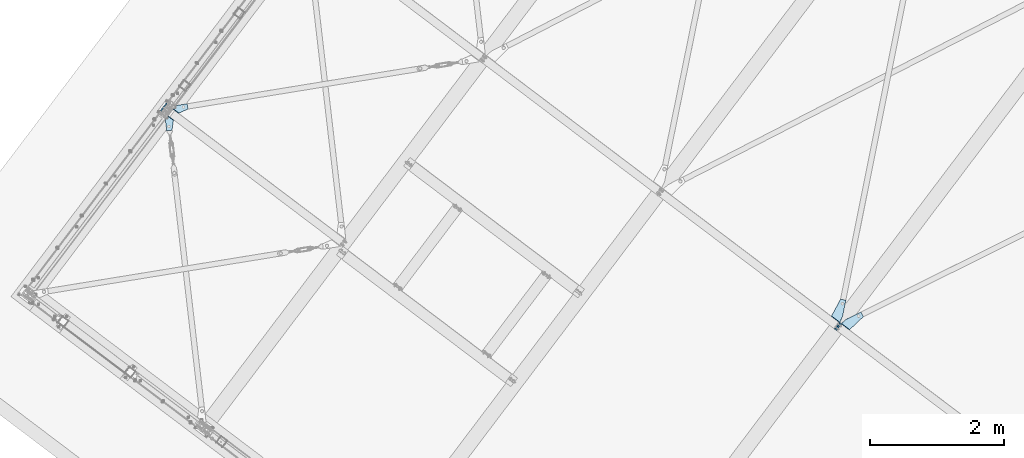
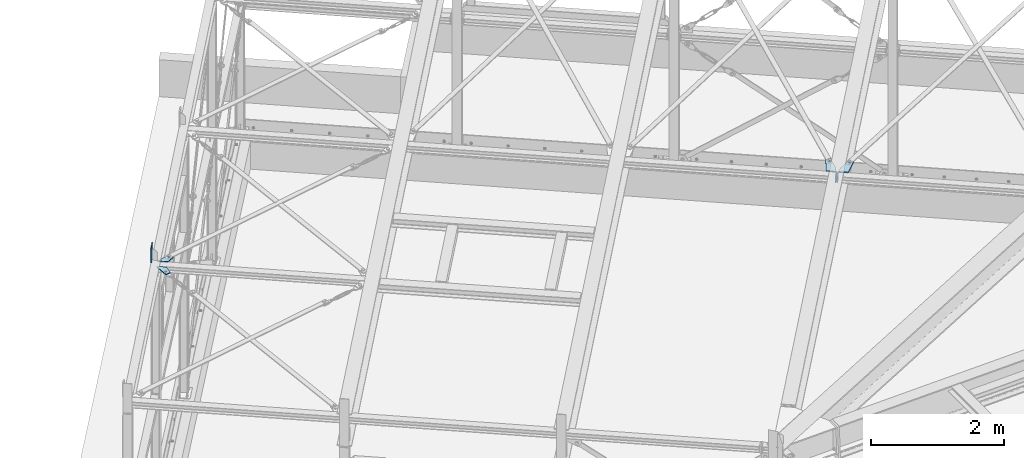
# One storey, part 55 of 476: 7 plates, 22 openings.
"""IFC2X3 building model written with IfcOpenShell, lengths in millimetres."""

from ifc_helpers import new_model, entity, si_unit, converted_unit, point, frame, frame_2d, origin, origin_with_axes, origin_2d_with_axis, place, context, project, spatial, polyline, circle_curve, line_curve, trimmed, segment, composite_curve, circle, outline, extrude, material, layer, layer_set, element, save


model = new_model("IFC2X3")

# Units and contexts
model_context = context("Model", 3, precision=1e-09, world=origin_with_axes())
ifc_project = project(units=[si_unit("LENGTHUNIT", "METRE", prefix="MILLI"), si_unit("AREAUNIT", "SQUARE_METRE"), si_unit("VOLUMEUNIT", "CUBIC_METRE"), converted_unit("PLANEANGLEUNIT", "DEGREE", entity("IfcPlaneAngleMeasure", 0.01745329), si_unit("PLANEANGLEUNIT", "RADIAN"), dimensions=[0, 0, 0, 0, 0, 0, 0])], contexts=[model_context])

# Site, building, storey
site_placement = place(None, origin_with_axes())
site = spatial("IfcSite", under=ifc_project, at=site_placement, Name="mKR Teilneubau & Sanierung BA1 - Ostfildern", CompositionType="ELEMENT")
building_placement = place(site_placement, origin_with_axes())
building = spatial("IfcBuilding", under=site, at=building_placement, Name="Struktur 1", CompositionType="ELEMENT")
storey_placement = place(building_placement, origin_with_axes())
storey = spatial("IfcBuildingStorey", under=building, at=storey_placement, Name="Default Storey", CompositionType="ELEMENT", Elevation=0.0)

# Plate, openings
ifc_material = material(Name="S235JR")
ifc_layer_1 = layer(ifc_material, 15.0)
ifc_layer_set_1 = layer_set([ifc_layer_1], Name="S235JR")
plate_1_placement = place(None, frame((12345.228374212, -385.538776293, 5423.379371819), z_axis=(-0.018098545, -0.02396011, 0.999549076), x_axis=(0.602462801, 0.797581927, 0.030027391)))
plate_1 = element("IfcPlate", 1, at=plate_1_placement, inside=storey, material=ifc_layer_set_1, Name="-", ObjectType="-", context=model_context, shape_type="SweptSolid", body=[
    extrude(outline(polyline([(0.0, 0.0), (69.510071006, 0.0), (323.508183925, 122.383902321), (288.782369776, 194.454130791), (1.572e-05, 149.999963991), (0.0, 0.0)])), origin_with_axes(), (0.0, 0.0, -1.0), 15.0),
])
opening_1_placement = place(plate_1_placement, frame((69.510071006, 0.0, 0.01), z_axis=(0.0, 0.0, 1.0), x_axis=(0.900878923, 0.434070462, 0.0)))
element("IfcOpeningElement", 2, at=opening_1_placement, cuts=plate_1, ObjectType="Opening", context=model_context, shape_type="SweptSolid", body=[
    extrude(outline(composite_curve([segment(trimmed(line_curve((0.0, 0.0), (1.0, 0.0), 39.961688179), [point((0.0, 0.0))], [point((39.961688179, 0.0))], True, "CARTESIAN"), True, "CONTINUOUS"), segment(trimmed(circle_curve(frame_2d((39.961688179, 175.0), x_axis=(-1.0, 0.0)), 175.0), [point((39.961688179, 0.0))], [point((-36.000642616, 17.346188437))], False, "CARTESIAN"), True, "CONTINUOUS"), segment(trimmed(line_curve((-36.000642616, 17.346188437), (0.900878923, -0.434070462), 39.961688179), [point((-36.000642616, 17.346188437))], [point((0.0, 0.0))], True, "CARTESIAN"), True, "CONTINUOUS")], self_intersect=False)), origin(), (0.0, 0.0, -1.0), 15.02),
])
opening_2_placement = place(plate_1_placement, frame((0.0, -0.000999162, 0.0), z_axis=(1.05e-07, 1.0, 0.0), x_axis=(1.0, -1.05e-07, 0.0)))
element("IfcOpeningElement", 3, at=opening_2_placement, cuts=plate_1, ObjectType="Opening", context=model_context, shape_type="SweptSolid", body=[
    extrude(outline(polyline([(0.0, 0.0), (8.0, 0.0), (0.0, 8.0), (0.0, 0.0)])), origin(), (0.0, 0.0, 1.0), 151.253456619),
])
opening_3_placement = place(plate_1_placement, frame((265.157700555, 138.669993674, -15.499642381), z_axis=(1.1814e-05, 5.692e-06, -1.0), x_axis=(-1.0, 0.0, -1.1814e-05)))
element("IfcOpeningElement", 4, at=opening_3_placement, cuts=plate_1, ObjectType="Opening", context=model_context, shape_type="SweptSolid", body=[
    extrude(circle(Radius=14.501, at=frame_2d((13.063645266, -6.294455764), x_axis=(1.0, 0.0))), origin(), (0.0, 0.0, -1.0), 16.000000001),
])

plate_2_placement = place(None, frame((2374.684991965, 2822.201131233, 5319.737997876), z_axis=(0.018098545, 0.02396011, -0.999549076), x_axis=(0.602462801, 0.797581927, 0.030027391)))
plate_2 = element("IfcPlate", 5, at=plate_2_placement, inside=storey, material=ifc_layer_set_1, Name="-", ObjectType="-", context=model_context, shape_type="SweptSolid", body=[
    extrude(outline(polyline([(0.0, 0.0), (16.761939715, 0.0), (192.636873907, 167.974256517), (137.382787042, 225.827096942), (1.572e-05, 149.999963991), (0.0, 0.0)])), origin_with_axes(), (0.0, 0.0, 1.0), 15.0),
])
opening_4_placement = place(plate_2_placement, frame((1.6183e-05, 154.416490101, 0.0), z_axis=(-1.05e-07, -1.0, 0.0), x_axis=(1.0, -1.05e-07, 0.0)))
element("IfcOpeningElement", 6, at=opening_4_placement, cuts=plate_2, ObjectType="Opening", context=model_context, shape_type="SweptSolid", body=[
    extrude(outline(polyline([(0.0, 0.0), (8.0, 0.0), (0.0, 8.0), (0.0, 0.0)])), origin(), (0.0, 0.0, 1.0), 154.437489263),
])
opening_5_placement = place(plate_2_placement, frame((132.106849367, 165.475673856, 15.499709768), z_axis=(7.613e-06, 7.271e-06, 1.0), x_axis=(1.0, 0.0, -7.613e-06)))
element("IfcOpeningElement", 7, at=opening_5_placement, cuts=plate_2, ObjectType="Opening", context=model_context, shape_type="SweptSolid", body=[
    extrude(circle(Radius=14.501, at=frame_2d((-10.486598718, -10.015500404), x_axis=(1.0, 0.0))), origin(), (0.0, 0.0, -1.0), 16.000000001),
])

plate_3_placement = place(None, frame((2302.388707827, 2726.489821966, 5316.134661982), z_axis=(-0.018098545, -0.02396011, 0.999549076), x_axis=(-0.602462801, -0.797581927, -0.030027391)))
plate_3 = element("IfcPlate", 8, at=plate_3_placement, inside=storey, material=ifc_layer_set_1, Name="-", ObjectType="-", context=model_context, shape_type="SweptSolid", body=[
    extrude(outline(polyline([(0.0, 0.0), (16.761939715, 0.0), (192.636873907, 167.974256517), (137.382787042, 225.827096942), (1.572e-05, 149.999963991), (0.0, 0.0)])), origin_with_axes(), (0.0, 0.0, -1.0), 15.0),
])
opening_6_placement = place(plate_3_placement, frame((0.0, -0.000999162, 0.0), z_axis=(1.05e-07, 1.0, 0.0), x_axis=(1.0, -1.05e-07, 0.0)))
element("IfcOpeningElement", 9, at=opening_6_placement, cuts=plate_3, ObjectType="Opening", context=model_context, shape_type="SweptSolid", body=[
    extrude(outline(polyline([(0.0, 0.0), (8.0, 0.0), (0.0, 8.0), (0.0, 0.0)])), origin(), (0.0, 0.0, 1.0), 154.437489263),
])
opening_7_placement = place(plate_3_placement, frame((121.62025065, 155.460173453, -15.499862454), z_axis=(-7.613e-06, -7.271e-06, 1.0), x_axis=(-0.723163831, -0.690676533, -1.0527e-05)))
element("IfcOpeningElement", 10, at=opening_7_placement, cuts=plate_3, ObjectType="Opening", context=model_context, shape_type="SweptSolid", body=[
    extrude(circle(Radius=14.501, at=origin_2d_with_axis()), origin(), (0.0, 0.0, 1.0), 16.000000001),
])

# Plate
ifc_layer_2 = layer(ifc_material, 10.0)
ifc_layer_set_2 = layer_set([ifc_layer_2], Name="S235JR")
plate_4_placement = place(None, frame((2255.376349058, 2789.18271498, 5576.736213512), z_axis=(-0.797941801, 0.602734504, 0.0), x_axis=(0.602734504, 0.797941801, 0.0)))
element("IfcPlate", 11, at=plate_4_placement, inside=storey, material=ifc_layer_set_2, Name="-", ObjectType="-", context=model_context, shape_type="SweptSolid", body=[
    extrude(outline(polyline([(-30.0, -74.09833483), (110.0, -74.09833483), (110.0, 196.693894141), (-30.0, 200.90166517), (-30.0, -74.09833483)])), origin_with_axes(), (0.0, 0.0, 1.0), 10.0),
])

# Plate, openings
plate_5_placement = place(None, frame((12373.955019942, -407.237317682, 5423.378625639), z_axis=(0.018098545, 0.02396011, -0.999549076), x_axis=(0.602462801, 0.797581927, 0.030027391)))
plate_5 = element("IfcPlate", 12, at=plate_5_placement, inside=storey, material=ifc_layer_set_1, Name="-", ObjectType="-", context=model_context, shape_type="SweptSolid", body=[
    extrude(outline(polyline([(0.0, 0.0), (65.954896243, 0.0), (321.261469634, 127.050274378), (285.61998654, 198.672036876), (1.572e-05, 149.999963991), (0.0, 0.0)])), origin_with_axes(), (0.0, 0.0, 1.0), 15.0),
])
opening_8_placement = place(plate_5_placement, frame((0.0, 0.0, -0.01), z_axis=(0.0, 0.0, 1.0), x_axis=(1.0, 0.0, 0.0)))
element("IfcOpeningElement", 13, at=opening_8_placement, cuts=plate_5, ObjectType="Opening", context=model_context, shape_type="SweptSolid", body=[
    extrude(outline(composite_curve([segment(trimmed(line_curve((65.954896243, 0.0), (0.895271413, 0.445521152), 41.13722238), [point((65.954896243, 0.0))], [point((102.783875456, 18.327502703))], True, "CARTESIAN"), True, "CONTINUOUS"), segment(trimmed(circle_curve(frame_2d((24.817673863, 175.0), x_axis=(-1.0, 0.0)), 175.0), [point((102.783875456, 18.327502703))], [point((24.817673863, 0.0))], False, "CARTESIAN"), True, "CONTINUOUS"), segment(trimmed(line_curve((24.817673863, 0.0), (1.0, 0.0), 41.13722238), [point((24.817673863, 0.0))], [point((65.954896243, 0.0))], True, "CARTESIAN"), True, "CONTINUOUS")], self_intersect=False)), origin(), (0.0, 0.0, 1.0), 15.02),
])
opening_9_placement = place(plate_5_placement, frame((1.5863e-05, 151.364232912, 0.0), z_axis=(-1.05e-07, -1.0, 0.0), x_axis=(1.0, -1.05e-07, 0.0)))
element("IfcOpeningElement", 14, at=opening_9_placement, cuts=plate_5, ObjectType="Opening", context=model_context, shape_type="SweptSolid", body=[
    extrude(outline(polyline([(0.0, 0.0), (8.0, 0.0), (0.0, 8.0), (0.0, 0.0)])), origin(), (0.0, 0.0, 1.0), 151.385232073),
])
opening_10_placement = place(plate_5_placement, frame((249.724542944, 136.129920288, 15.499813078), z_axis=(-1.1668e-05, -5.806e-06, -1.0), x_axis=(0.89527149, 0.445520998, -1.3033e-05)))
element("IfcOpeningElement", 15, at=opening_10_placement, cuts=plate_5, ObjectType="Opening", context=model_context, shape_type="SweptSolid", body=[
    extrude(circle(Radius=14.501, at=origin_2d_with_axis()), origin(), (0.0, 0.0, 1.0), 16.000000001),
])

ifc_layer_3 = layer(ifc_material, 12.0)
ifc_layer_set_3 = layer_set([ifc_layer_3], Name="S235JR")
plate_6_placement = place(None, frame((12282.418755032, -488.60029528, 5424.772563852), z_axis=(-0.797941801, 0.602734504, 0.0), x_axis=(0.602462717, 0.79758199, 0.030027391)))
plate_6 = element("IfcPlate", 16, at=plate_6_placement, inside=storey, material=ifc_layer_set_3, Name="Endplate", ObjectType="Endplate", context=model_context, shape_type="SweptSolid", body=[
    extrude(outline(polyline([(0.0, 0.0), (120.0, 0.0), (120.0, 124.0), (0.0, 124.0), (0.0, 0.0)])), origin_with_axes(), (0.0, 0.0, 1.0), 12.0),
])
opening_11_placement = place(plate_6_placement, frame((45.5, 99.0, -0.5), z_axis=(0.0, 0.0, 1.0), x_axis=(0.0, 1.0, 0.0)))
element("IfcOpeningElement", 17, at=opening_11_placement, cuts=plate_6, ObjectType="Opening", context=model_context, shape_type="SweptSolid", body=[
    extrude(circle(Radius=6.001, at=origin_2d_with_axis()), origin(), (0.0, 0.0, 1.0), 13.0),
])
opening_12_placement = place(plate_6_placement, frame((45.5, 25.0, -0.5), z_axis=(0.0, 0.0, 1.0), x_axis=(0.0, 1.0, 0.0)))
element("IfcOpeningElement", 18, at=opening_12_placement, cuts=plate_6, ObjectType="Opening", context=model_context, shape_type="SweptSolid", body=[
    extrude(circle(Radius=6.001, at=origin_2d_with_axis()), origin(), (0.0, 0.0, 1.0), 13.0),
])
opening_13_placement = place(plate_6_placement, frame((74.5, 25.0, -0.5), z_axis=(0.0, 0.0, 1.0), x_axis=(0.0, 1.0, 0.0)))
element("IfcOpeningElement", 19, at=opening_13_placement, cuts=plate_6, ObjectType="Opening", context=model_context, shape_type="SweptSolid", body=[
    extrude(circle(Radius=6.001, at=origin_2d_with_axis()), origin(), (0.0, 0.0, 1.0), 13.0),
])
opening_14_placement = place(plate_6_placement, frame((74.5, 99.0, -0.5), z_axis=(0.0, 0.0, 1.0), x_axis=(0.0, 1.0, 0.0)))
element("IfcOpeningElement", 20, at=opening_14_placement, cuts=plate_6, ObjectType="Opening", context=model_context, shape_type="SweptSolid", body=[
    extrude(circle(Radius=6.001, at=origin_2d_with_axis()), origin(), (0.0, 0.0, 1.0), 13.0),
])
opening_15_placement = place(plate_6_placement, frame((90.0, 62.0, -0.5), z_axis=(0.0, 0.0, 1.0), x_axis=(0.0, -1.0, 0.0)))
element("IfcOpeningElement", 21, at=opening_15_placement, cuts=plate_6, ObjectType="Opening", context=model_context, shape_type="SweptSolid", body=[
    extrude(circle(Radius=7.001, at=origin_2d_with_axis()), origin(), (0.0, 0.0, 1.0), 13.0),
])
opening_16_placement = place(plate_6_placement, frame((30.0, 62.0, -0.5), z_axis=(0.0, 0.0, 1.0), x_axis=(0.0, -1.0, 0.0)))
element("IfcOpeningElement", 22, at=opening_16_placement, cuts=plate_6, ObjectType="Opening", context=model_context, shape_type="SweptSolid", body=[
    extrude(circle(Radius=7.001, at=origin_2d_with_axis()), origin(), (0.0, 0.0, 1.0), 13.0),
])

plate_7_placement = place(None, frame((12364.289580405, -400.123273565, 5428.375850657), z_axis=(0.797941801, -0.602734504, 0.0), x_axis=(-0.602462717, -0.79758199, -0.030027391)))
plate_7 = element("IfcPlate", 23, at=plate_7_placement, inside=storey, material=ifc_layer_set_3, Name="Endplate", ObjectType="Endplate", context=model_context, shape_type="SweptSolid", body=[
    extrude(outline(polyline([(0.0, 0.0), (120.0, 0.0), (120.0, 124.0), (0.0, 124.0), (0.0, 0.0)])), origin_with_axes(), (0.0, 0.0, 1.0), 12.0),
])
opening_17_placement = place(plate_7_placement, frame((89.999996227, 62.0, 12.5), z_axis=(0.0, 0.0, -1.0), x_axis=(0.0, -1.0, 0.0)))
element("IfcOpeningElement", 24, at=opening_17_placement, cuts=plate_7, ObjectType="Opening", context=model_context, shape_type="SweptSolid", body=[
    extrude(circle(Radius=7.001, at=origin_2d_with_axis()), origin(), (0.0, 0.0, 1.0), 13.0),
])
opening_18_placement = place(plate_7_placement, frame((29.999996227, 62.0, 12.5), z_axis=(0.0, 0.0, -1.0), x_axis=(0.0, -1.0, 0.0)))
element("IfcOpeningElement", 25, at=opening_18_placement, cuts=plate_7, ObjectType="Opening", context=model_context, shape_type="SweptSolid", body=[
    extrude(circle(Radius=7.001, at=origin_2d_with_axis()), origin(), (0.0, 0.0, 1.0), 13.0),
])
opening_19_placement = place(plate_7_placement, frame((74.5, 99.0, -0.5), z_axis=(0.0, 0.0, 1.0), x_axis=(0.0, -1.0, 0.0)))
element("IfcOpeningElement", 26, at=opening_19_placement, cuts=plate_7, ObjectType="Opening", context=model_context, shape_type="SweptSolid", body=[
    extrude(circle(Radius=6.001, at=origin_2d_with_axis()), origin(), (0.0, 0.0, 1.0), 13.0),
])
opening_20_placement = place(plate_7_placement, frame((74.5, 25.0, -0.5), z_axis=(0.0, 0.0, 1.0), x_axis=(0.0, -1.0, 0.0)))
element("IfcOpeningElement", 27, at=opening_20_placement, cuts=plate_7, ObjectType="Opening", context=model_context, shape_type="SweptSolid", body=[
    extrude(circle(Radius=6.001, at=origin_2d_with_axis()), origin(), (0.0, 0.0, 1.0), 13.0),
])
opening_21_placement = place(plate_7_placement, frame((45.5, 25.0, -0.5), z_axis=(0.0, 0.0, 1.0), x_axis=(0.0, -1.0, 0.0)))
element("IfcOpeningElement", 28, at=opening_21_placement, cuts=plate_7, ObjectType="Opening", context=model_context, shape_type="SweptSolid", body=[
    extrude(circle(Radius=6.001, at=origin_2d_with_axis()), origin(), (0.0, 0.0, 1.0), 13.0),
])
opening_22_placement = place(plate_7_placement, frame((45.5, 99.0, -0.5), z_axis=(0.0, 0.0, 1.0), x_axis=(0.0, -1.0, 0.0)))
element("IfcOpeningElement", 29, at=opening_22_placement, cuts=plate_7, ObjectType="Opening", context=model_context, shape_type="SweptSolid", body=[
    extrude(circle(Radius=6.001, at=origin_2d_with_axis()), origin(), (0.0, 0.0, 1.0), 13.0),
])

save(model, "model.ifc")
